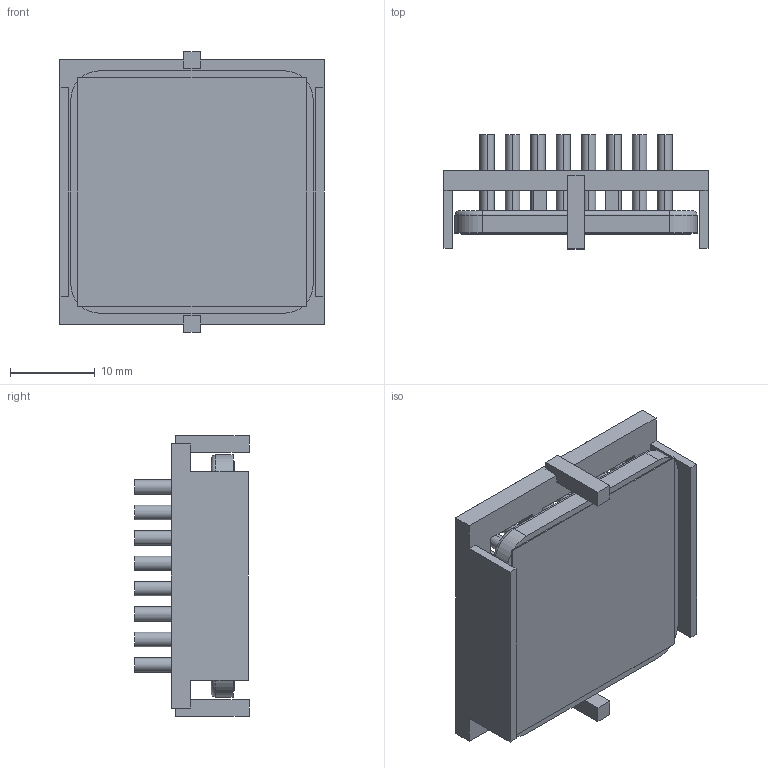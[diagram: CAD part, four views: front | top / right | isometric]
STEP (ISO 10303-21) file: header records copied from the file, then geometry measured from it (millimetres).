
FILE_DESCRIPTION (( 'STEP AP214' ), '1' );
FILE_NAME ('INM29002-12PCU-2.6BU.STEP', '2023-03-02T23:04:22', ( '' ), ( '' ), 'SwSTEP 2.0', 'SolidWorks 2020', '' );
FILE_SCHEMA (( 'AUTOMOTIVE_DESIGN' ));
Length unit declared in the file: inch
Products named in the file (1): INM29002-12PCU-2.6BU
Bounding box: 31.2 x 13.5 x 33.2 mm (x, y, z)
Volume: 4756.9 mm3; surface area: 8412.8 mm2
Topology: 3 solids, 3 shells, 246 faces, 544 edges, 360 vertices
Faces by surface type: plane 122, cylinder 120, torus 4
Entity records: 10132 total; most frequent: DIRECTION 1282, CARTESIAN_POINT 1151, ORIENTED_EDGE 1088, EDGE_CURVE 544, AXIS2_PLACEMENT_3D 491, VERTEX_POINT 360, EDGE_LOOP 304, LINE 300
